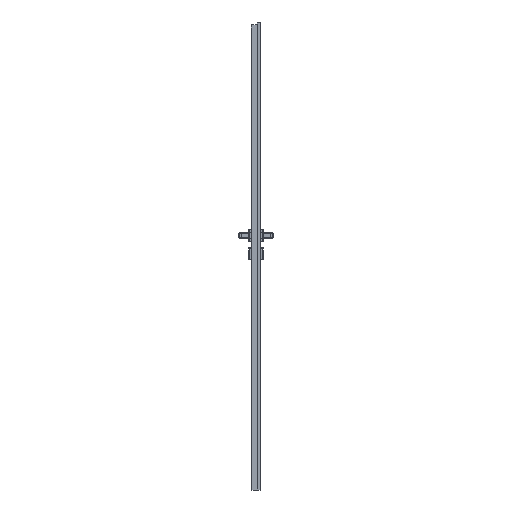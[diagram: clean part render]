
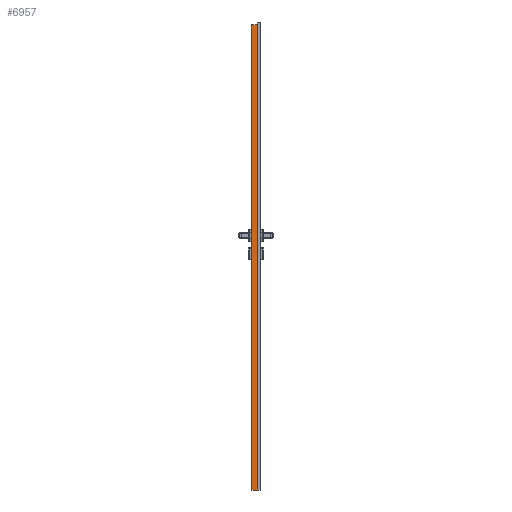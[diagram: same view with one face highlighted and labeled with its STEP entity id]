
A CAD part, left-side view. The second image highlights one B-rep face of the part: STEP entity #6957.
In plain terms, the highlighted planar face has unit normal (-1, 0, 0).
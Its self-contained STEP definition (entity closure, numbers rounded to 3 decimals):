
#6957=ADVANCED_FACE('',(#12289),#10553,.F.);
#10553=PLANE('',#63114);
#12289=FACE_OUTER_BOUND('',#16087,.T.);
#16087=EDGE_LOOP('',(#22251,#22252,#22253,#22254,#22255));
#22251=ORIENTED_EDGE('',*,*,#43406,.T.);
#22252=ORIENTED_EDGE('',*,*,#43416,.T.);
#22253=ORIENTED_EDGE('',*,*,#43417,.T.);
#22254=ORIENTED_EDGE('',*,*,#43418,.F.);
#22255=ORIENTED_EDGE('',*,*,#43419,.F.);
#37834=VERTEX_POINT('',#84329);
#37835=VERTEX_POINT('',#84331);
#37843=VERTEX_POINT('',#84351);
#37844=VERTEX_POINT('',#84353);
#37845=VERTEX_POINT('',#84355);
#43406=EDGE_CURVE('',#37835,#37834,#51476,.T.);
#43416=EDGE_CURVE('',#37834,#37843,#51486,.T.);
#43417=EDGE_CURVE('',#37843,#37844,#51487,.T.);
#43418=EDGE_CURVE('',#37845,#37844,#51488,.T.);
#43419=EDGE_CURVE('',#37835,#37845,#51489,.T.);
#51476=LINE('',#84330,#57176);
#51486=LINE('',#84350,#57186);
#51487=LINE('',#84352,#57187);
#51488=LINE('',#84354,#57188);
#51489=LINE('',#84356,#57189);
#57176=VECTOR('',#67625,1.);
#57186=VECTOR('',#67639,1.);
#57187=VECTOR('',#67640,1.);
#57188=VECTOR('',#67641,1.);
#57189=VECTOR('',#67642,1.);
#63114=AXIS2_PLACEMENT_3D('',#84357,#67643,#67644);
#67625=DIRECTION('',(0.,0.,-1.));
#67639=DIRECTION('',(0.,-0.707,-0.707));
#67640=DIRECTION('',(0.,-1.,0.));
#67641=DIRECTION('',(0.,0.,-1.));
#67642=DIRECTION('',(0.,-1.,0.));
#67643=DIRECTION('',(1.,0.,0.));
#67644=DIRECTION('',(0.,0.,-1.));
#84329=CARTESIAN_POINT('',(-309.,0.,2.));
#84330=CARTESIAN_POINT('',(-309.,0.,2030.));
#84331=CARTESIAN_POINT('',(-309.,0.,2017.));
#84350=CARTESIAN_POINT('',(-309.,0.,2.));
#84351=CARTESIAN_POINT('',(-309.,-2.,0.));
#84352=CARTESIAN_POINT('',(-309.,0.,0.));
#84353=CARTESIAN_POINT('',(-309.,-26.,0.));
#84354=CARTESIAN_POINT('',(-309.,-26.,2030.));
#84355=CARTESIAN_POINT('',(-309.,-26.,2017.));
#84356=CARTESIAN_POINT('',(-309.,0.,2017.));
#84357=CARTESIAN_POINT('',(-309.,0.,2030.));
